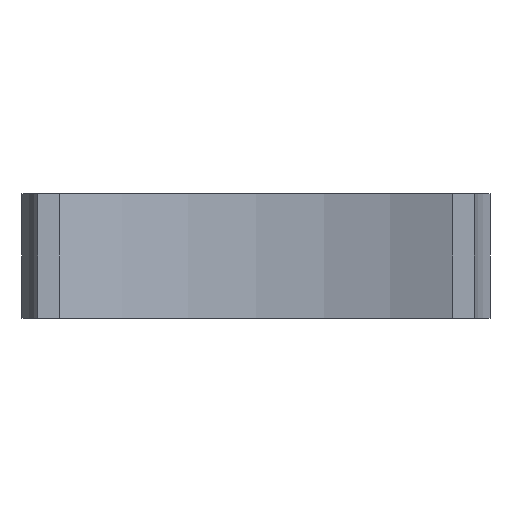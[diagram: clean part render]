
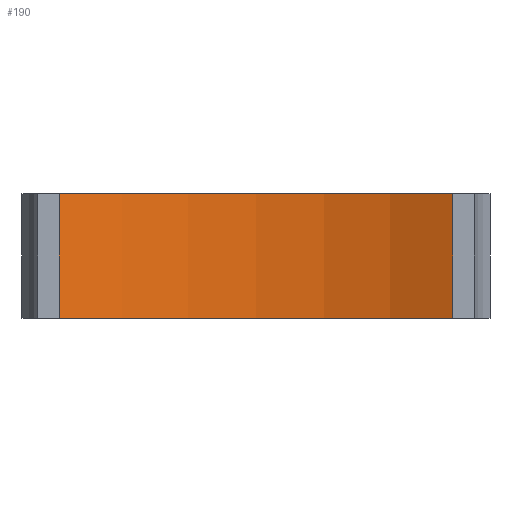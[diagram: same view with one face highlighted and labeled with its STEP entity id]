
A CAD part, left-side view. The second image highlights one B-rep face of the part: STEP entity #190.
In plain terms, the highlighted cylindrical face has radius 28 mm (diameter 56 mm), a partial arc.
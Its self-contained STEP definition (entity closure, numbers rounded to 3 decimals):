
#16 = DIRECTION ( 'NONE',  ( 0., 0., -1. ) ) ;
#23 = CARTESIAN_POINT ( 'NONE',  ( 25., -12.61, 0. ) ) ;
#30 = VECTOR ( 'NONE', #845, 1000. ) ;
#86 = CARTESIAN_POINT ( 'NONE',  ( 0., 0., 8. ) ) ;
#98 = CARTESIAN_POINT ( 'NONE',  ( 25., -12.61, 8. ) ) ;
#108 = CARTESIAN_POINT ( 'NONE',  ( 25., -12.61, 8. ) ) ;
#109 = AXIS2_PLACEMENT_3D ( 'NONE', #722, #634, #581 ) ;
#145 = ORIENTED_EDGE ( 'NONE', *, *, #647, .T. ) ;
#170 = ORIENTED_EDGE ( 'NONE', *, *, #976, .F. ) ;
#190 = ADVANCED_FACE ( 'NONE', ( #266 ), #741, .F. ) ;
#266 = FACE_OUTER_BOUND ( 'NONE', #940, .T. ) ;
#356 = DIRECTION ( 'NONE',  ( -1., 0., 0. ) ) ;
#362 = LINE ( 'NONE', #98, #847 ) ;
#407 = LINE ( 'NONE', #1116, #30 ) ;
#423 = EDGE_CURVE ( 'NONE', #549, #684, #862, .T. ) ;
#431 = ORIENTED_EDGE ( 'NONE', *, *, #423, .F. ) ;
#444 = EDGE_CURVE ( 'NONE', #549, #673, #407, .T. ) ;
#549 = VERTEX_POINT ( 'NONE', #670 ) ;
#553 = CARTESIAN_POINT ( 'NONE',  ( 0., 0., 0. ) ) ;
#581 = DIRECTION ( 'NONE',  ( 1., 0., 0. ) ) ;
#634 = DIRECTION ( 'NONE',  ( 0., 0., -1. ) ) ;
#636 = DIRECTION ( 'NONE',  ( 1., 0., 0. ) ) ;
#647 = EDGE_CURVE ( 'NONE', #673, #1035, #838, .T. ) ;
#670 = CARTESIAN_POINT ( 'NONE',  ( 25., 12.61, 8. ) ) ;
#673 = VERTEX_POINT ( 'NONE', #886 ) ;
#684 = VERTEX_POINT ( 'NONE', #108 ) ;
#722 = CARTESIAN_POINT ( 'NONE',  ( 0., 0., 8. ) ) ;
#741 = CYLINDRICAL_SURFACE ( 'NONE', #803, 28. ) ;
#771 = AXIS2_PLACEMENT_3D ( 'NONE', #553, #16, #636 ) ;
#803 = AXIS2_PLACEMENT_3D ( 'NONE', #86, #869, #356 ) ;
#838 = CIRCLE ( 'NONE', #771, 28. ) ;
#845 = DIRECTION ( 'NONE',  ( 0., 0., -1. ) ) ;
#847 = VECTOR ( 'NONE', #972, 1000. ) ;
#862 = CIRCLE ( 'NONE', #109, 28. ) ;
#869 = DIRECTION ( 'NONE',  ( 0., 0., -1. ) ) ;
#886 = CARTESIAN_POINT ( 'NONE',  ( 25., 12.61, 0. ) ) ;
#940 = EDGE_LOOP ( 'NONE', ( #145, #170, #431, #962 ) ) ;
#962 = ORIENTED_EDGE ( 'NONE', *, *, #444, .T. ) ;
#972 = DIRECTION ( 'NONE',  ( 0., 0., -1. ) ) ;
#976 = EDGE_CURVE ( 'NONE', #684, #1035, #362, .T. ) ;
#1035 = VERTEX_POINT ( 'NONE', #23 ) ;
#1116 = CARTESIAN_POINT ( 'NONE',  ( 25., 12.61, 8. ) ) ;
